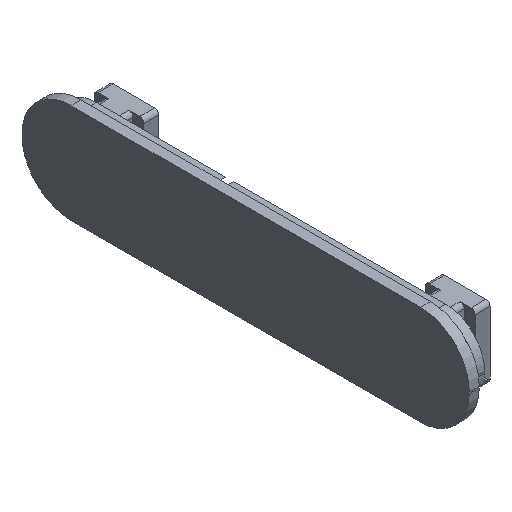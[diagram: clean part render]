
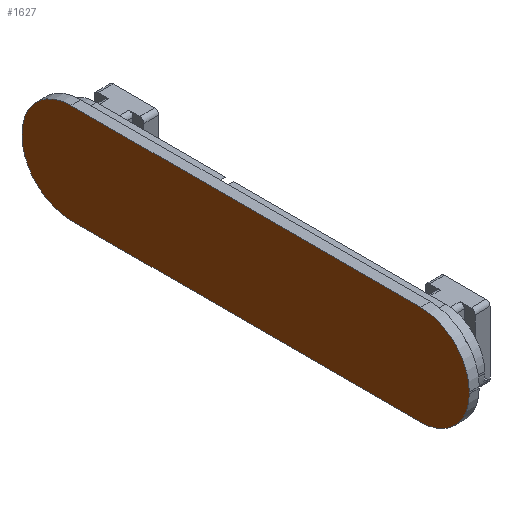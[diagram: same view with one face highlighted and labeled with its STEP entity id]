
A CAD part, isometric view. The second image highlights one B-rep face of the part: STEP entity #1627.
In plain terms, the highlighted planar face has unit normal (-1, 0, 0).
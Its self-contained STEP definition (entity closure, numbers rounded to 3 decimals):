
#132=FACE_OUTER_BOUND('',#218,.T.);
#218=EDGE_LOOP('',(#1480,#1481,#1482,#1483,#1484,#1485,#1486,#1487));
#288=CIRCLE('',#1780,5.9);
#289=CIRCLE('',#1784,5.9);
#290=CIRCLE('',#1786,5.9);
#291=CIRCLE('',#1790,5.9);
#439=LINE('',#2777,#603);
#441=LINE('',#2781,#605);
#445=LINE('',#2793,#609);
#447=LINE('',#2797,#611);
#603=VECTOR('',#2226,1.);
#605=VECTOR('',#2230,1.);
#609=VECTOR('',#2244,1.);
#611=VECTOR('',#2248,1.);
#766=VERTEX_POINT('',#2769);
#767=VERTEX_POINT('',#2771);
#768=VERTEX_POINT('',#2775);
#769=VERTEX_POINT('',#2779);
#770=VERTEX_POINT('',#2783);
#771=VERTEX_POINT('',#2787);
#772=VERTEX_POINT('',#2791);
#773=VERTEX_POINT('',#2795);
#994=EDGE_CURVE('',#766,#767,#288,.T.);
#996=EDGE_CURVE('',#768,#767,#439,.T.);
#998=EDGE_CURVE('',#766,#769,#441,.T.);
#1000=EDGE_CURVE('',#768,#770,#289,.T.);
#1002=EDGE_CURVE('',#771,#769,#290,.T.);
#1004=EDGE_CURVE('',#772,#770,#445,.T.);
#1006=EDGE_CURVE('',#773,#771,#447,.T.);
#1007=EDGE_CURVE('',#772,#773,#291,.T.);
#1480=ORIENTED_EDGE('',*,*,#1007,.T.);
#1481=ORIENTED_EDGE('',*,*,#1006,.T.);
#1482=ORIENTED_EDGE('',*,*,#1002,.T.);
#1483=ORIENTED_EDGE('',*,*,#998,.F.);
#1484=ORIENTED_EDGE('',*,*,#994,.T.);
#1485=ORIENTED_EDGE('',*,*,#996,.F.);
#1486=ORIENTED_EDGE('',*,*,#1000,.T.);
#1487=ORIENTED_EDGE('',*,*,#1004,.F.);
#1543=PLANE('',#1797);
#1627=ADVANCED_FACE('',(#132),#1543,.F.);
#1780=AXIS2_PLACEMENT_3D('',#2773,#2221,#2222);
#1784=AXIS2_PLACEMENT_3D('',#2785,#2234,#2235);
#1786=AXIS2_PLACEMENT_3D('',#2789,#2239,#2240);
#1790=AXIS2_PLACEMENT_3D('',#2799,#2251,#2252);
#1797=AXIS2_PLACEMENT_3D('',#2818,#2273,#2274);
#2221=DIRECTION('center_axis',(-1.,0.,0.));
#2222=DIRECTION('ref_axis',(0.,0.,-1.));
#2226=DIRECTION('',(0.,0.,-1.));
#2230=DIRECTION('',(0.,1.,0.));
#2234=DIRECTION('center_axis',(-1.,0.,0.));
#2235=DIRECTION('ref_axis',(0.,0.,-1.));
#2239=DIRECTION('center_axis',(-1.,0.,0.));
#2240=DIRECTION('ref_axis',(0.,0.,-1.));
#2244=DIRECTION('',(0.,-1.,0.));
#2248=DIRECTION('',(0.,0.,-1.));
#2251=DIRECTION('center_axis',(-1.,0.,0.));
#2252=DIRECTION('ref_axis',(0.,0.,-1.));
#2273=DIRECTION('center_axis',(1.,0.,0.));
#2274=DIRECTION('ref_axis',(0.,0.,-1.));
#2769=CARTESIAN_POINT('',(-40.5,-9.1,-18.));
#2771=CARTESIAN_POINT('',(-40.5,-15.,-12.1));
#2773=CARTESIAN_POINT('Origin',(-40.5,-9.1,-12.1));
#2775=CARTESIAN_POINT('',(-40.5,-15.,-11.9));
#2777=CARTESIAN_POINT('',(-40.5,-15.,-12.));
#2779=CARTESIAN_POINT('',(-40.5,33.1,-18.));
#2781=CARTESIAN_POINT('',(-40.5,12.,-18.));
#2783=CARTESIAN_POINT('',(-40.5,-9.1,-6.));
#2785=CARTESIAN_POINT('Origin',(-40.5,-9.1,-11.9));
#2787=CARTESIAN_POINT('',(-40.5,39.,-12.1));
#2789=CARTESIAN_POINT('Origin',(-40.5,33.1,-12.1));
#2791=CARTESIAN_POINT('',(-40.5,33.1,-6.));
#2793=CARTESIAN_POINT('',(-40.5,12.,-6.));
#2795=CARTESIAN_POINT('',(-40.5,39.,-11.9));
#2797=CARTESIAN_POINT('',(-40.5,39.,-12.));
#2799=CARTESIAN_POINT('Origin',(-40.5,33.1,-11.9));
#2818=CARTESIAN_POINT('Origin',(-40.5,12.,-12.));
